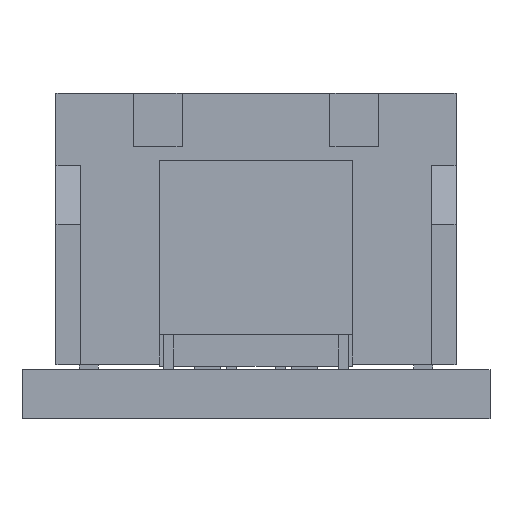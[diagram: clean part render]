
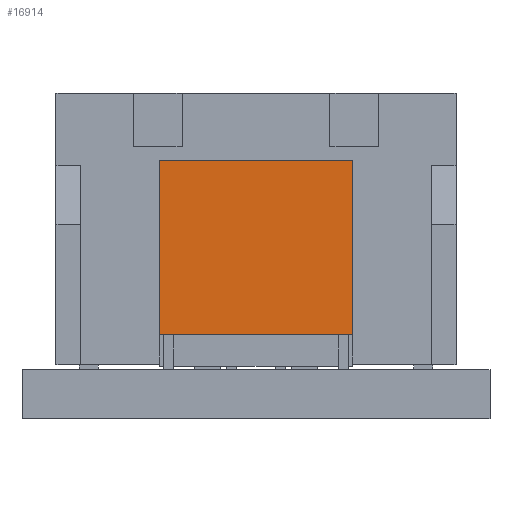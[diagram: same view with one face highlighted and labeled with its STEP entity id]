
A CAD part, front view. The second image highlights one B-rep face of the part: STEP entity #16914.
In plain terms, the highlighted planar face has unit normal (0, -1, 0).
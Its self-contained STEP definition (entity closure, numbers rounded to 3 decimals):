
#855 = LINE ( 'NONE', #1520, #3547 ) ;
#1520 = CARTESIAN_POINT ( 'NONE',  ( 2.826, 4.316, 1.736 ) ) ;
#1903 = ORIENTED_EDGE ( 'NONE', *, *, #24887, .T. ) ;
#2989 = DIRECTION ( 'NONE',  ( 0., 1., 0. ) ) ;
#3547 = VECTOR ( 'NONE', #8595, 1000. ) ;
#3737 = VERTEX_POINT ( 'NONE', #33070 ) ;
#4728 = PLANE ( 'NONE',  #22972 ) ;
#4944 = VECTOR ( 'NONE', #18944, 1000. ) ;
#6093 = VECTOR ( 'NONE', #8854, 1000. ) ;
#6196 = VERTEX_POINT ( 'NONE', #18409 ) ;
#6278 = CARTESIAN_POINT ( 'NONE',  ( 2.826, 4.316, 5.336 ) ) ;
#6450 = VERTEX_POINT ( 'NONE', #16843 ) ;
#8595 = DIRECTION ( 'NONE',  ( 1., 0., 0. ) ) ;
#8643 = LINE ( 'NONE', #18470, #30673 ) ;
#8854 = DIRECTION ( 'NONE',  ( 0., 0., -1. ) ) ;
#8926 = ORIENTED_EDGE ( 'NONE', *, *, #10301, .T. ) ;
#9240 = EDGE_CURVE ( 'NONE', #3737, #6450, #16587, .T. ) ;
#10301 = EDGE_CURVE ( 'NONE', #3737, #15311, #31885, .T. ) ;
#12179 = FACE_OUTER_BOUND ( 'NONE', #32888, .T. ) ;
#12758 = ORIENTED_EDGE ( 'NONE', *, *, #25315, .F. ) ;
#13299 = DIRECTION ( 'NONE',  ( -1., 0., 0. ) ) ;
#13422 = DIRECTION ( 'NONE',  ( 0., 0., -1. ) ) ;
#15311 = VERTEX_POINT ( 'NONE', #17673 ) ;
#16587 = LINE ( 'NONE', #6278, #4944 ) ;
#16843 = CARTESIAN_POINT ( 'NONE',  ( 6.826, 4.316, 5.336 ) ) ;
#16914 = ADVANCED_FACE ( 'NONE', ( #12179 ), #4728, .F. ) ;
#17673 = CARTESIAN_POINT ( 'NONE',  ( 2.826, 4.316, 1.736 ) ) ;
#18409 = CARTESIAN_POINT ( 'NONE',  ( 6.826, 4.316, 1.736 ) ) ;
#18470 = CARTESIAN_POINT ( 'NONE',  ( 6.826, 4.316, 5.336 ) ) ;
#18944 = DIRECTION ( 'NONE',  ( 1., 0., 0. ) ) ;
#22419 = CARTESIAN_POINT ( 'NONE',  ( 2.826, 4.316, 5.336 ) ) ;
#22972 = AXIS2_PLACEMENT_3D ( 'NONE', #22419, #2989, #13299 ) ;
#24353 = CARTESIAN_POINT ( 'NONE',  ( 2.826, 4.316, 5.336 ) ) ;
#24887 = EDGE_CURVE ( 'NONE', #15311, #6196, #855, .T. ) ;
#25315 = EDGE_CURVE ( 'NONE', #6450, #6196, #8643, .T. ) ;
#29698 = ORIENTED_EDGE ( 'NONE', *, *, #9240, .F. ) ;
#30673 = VECTOR ( 'NONE', #13422, 1000. ) ;
#31885 = LINE ( 'NONE', #24353, #6093 ) ;
#32888 = EDGE_LOOP ( 'NONE', ( #8926, #1903, #12758, #29698 ) ) ;
#33070 = CARTESIAN_POINT ( 'NONE',  ( 2.826, 4.316, 5.336 ) ) ;
